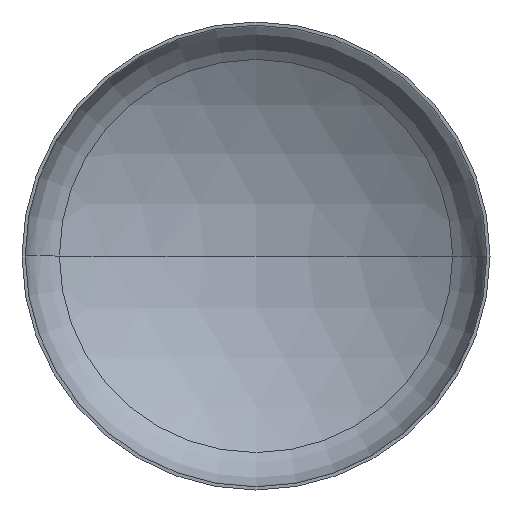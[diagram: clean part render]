
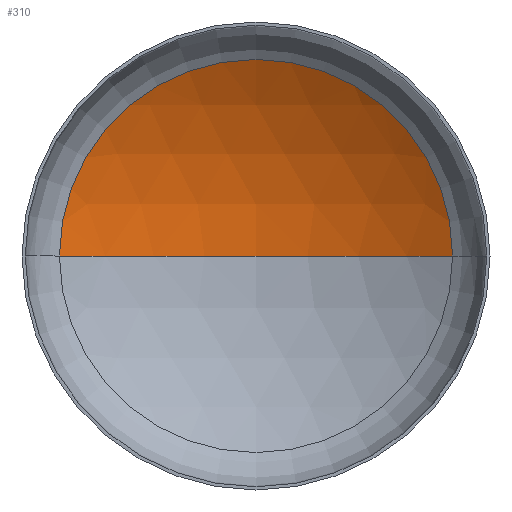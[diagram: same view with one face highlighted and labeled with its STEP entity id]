
A CAD part, front view. The second image highlights one B-rep face of the part: STEP entity #310.
In plain terms, the highlighted spherical face has radius 3200 mm.
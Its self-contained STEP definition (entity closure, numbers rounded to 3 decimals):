
#2 = FACE_OUTER_BOUND ( 'NONE', #81, .T. ) ;
#3 = AXIS2_PLACEMENT_3D ( 'NONE', #224, #367, #390 ) ;
#4 = VERTEX_POINT ( 'NONE', #411 ) ;
#7 = VERTEX_POINT ( 'NONE', #220 ) ;
#11 = ORIENTED_EDGE ( 'NONE', *, *, #139, .T. ) ;
#39 = AXIS2_PLACEMENT_3D ( 'NONE', #156, #183, #313 ) ;
#43 = AXIS2_PLACEMENT_3D ( 'NONE', #317, #186, #207 ) ;
#45 = AXIS2_PLACEMENT_3D ( 'NONE', #237, #274, #117 ) ;
#55 = ORIENTED_EDGE ( 'NONE', *, *, #144, .T. ) ;
#63 = ORIENTED_EDGE ( 'NONE', *, *, #145, .F. ) ;
#81 = EDGE_LOOP ( 'NONE', ( #63, #55, #11 ) ) ;
#117 = DIRECTION ( 'NONE',  ( 1., 0., 0. ) ) ;
#123 = CIRCLE ( 'NONE', #45, 1679.845 ) ;
#139 = EDGE_CURVE ( 'NONE', #147, #7, #123, .T. ) ;
#144 = EDGE_CURVE ( 'NONE', #4, #147, #378, .T. ) ;
#145 = EDGE_CURVE ( 'NONE', #4, #7, #312, .T. ) ;
#147 = VERTEX_POINT ( 'NONE', #288 ) ;
#156 = CARTESIAN_POINT ( 'NONE',  ( 0., -2115.176, 0. ) ) ;
#183 = DIRECTION ( 'NONE',  ( 0., 0., 1. ) ) ;
#186 = DIRECTION ( 'NONE',  ( 0., 0., -1. ) ) ;
#207 = DIRECTION ( 'NONE',  ( -1., 0., 0. ) ) ;
#220 = CARTESIAN_POINT ( 'NONE',  ( -1679.845, 608.446, 0. ) ) ;
#224 = CARTESIAN_POINT ( 'NONE',  ( 0., -2115.176, 0. ) ) ;
#237 = CARTESIAN_POINT ( 'NONE',  ( 0., 608.446, 0. ) ) ;
#274 = DIRECTION ( 'NONE',  ( 0., -1., 0. ) ) ;
#288 = CARTESIAN_POINT ( 'NONE',  ( 1679.845, 608.446, 0. ) ) ;
#292 = SPHERICAL_SURFACE ( 'NONE', #3, 3200. ) ;
#310 = ADVANCED_FACE ( 'NONE', ( #2 ), #292, .F. ) ;
#312 = CIRCLE ( 'NONE', #39, 3200. ) ;
#313 = DIRECTION ( 'NONE',  ( 1., 0., 0. ) ) ;
#317 = CARTESIAN_POINT ( 'NONE',  ( 0., -2115.176, 0. ) ) ;
#367 = DIRECTION ( 'NONE',  ( 0., 0., -1. ) ) ;
#378 = CIRCLE ( 'NONE', #43, 3200. ) ;
#390 = DIRECTION ( 'NONE',  ( -1., 0., 0. ) ) ;
#411 = CARTESIAN_POINT ( 'NONE',  ( 0., 1084.824, 0. ) ) ;
